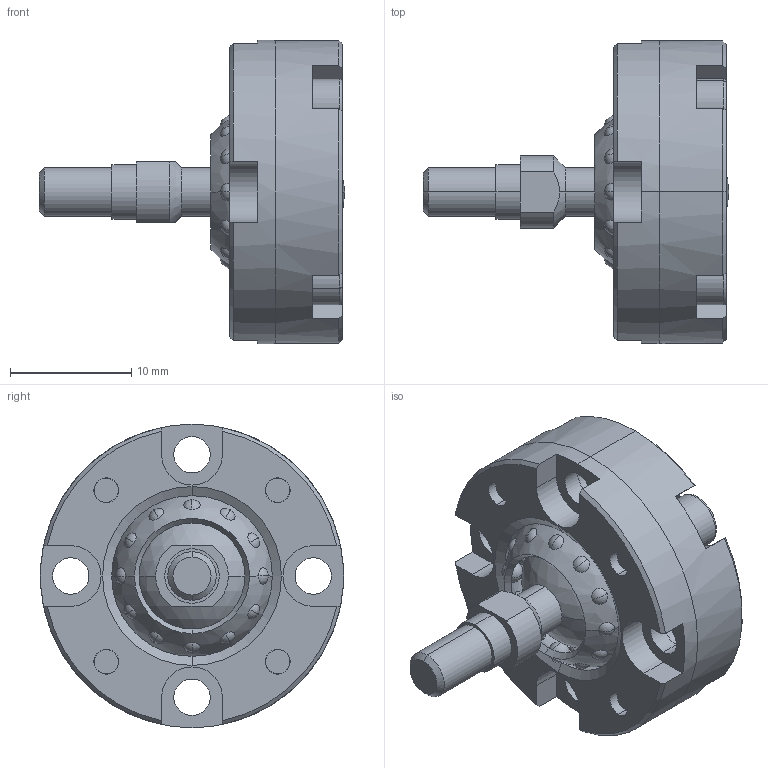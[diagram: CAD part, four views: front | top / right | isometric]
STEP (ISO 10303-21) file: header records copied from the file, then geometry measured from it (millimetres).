
FILE_DESCRIPTION (( 'STEP AP203' ), '1' );
FILE_NAME ('SR JOINT - SRJ006C.STEP', '2010-06-01T19:31:01', ( 'render' ), ( '' ), 'SwSTEP 2.0', 'SolidWorks 2009', '' );
FILE_SCHEMA (( 'CONFIG_CONTROL_DESIGN' ));
Length unit declared in the file: millimetre
Products named in the file (1): SR JOINT - SRJ006C
Bounding box: 25.2 x 25 x 25 mm (x, y, z)
Surface area: 4395 mm2 (no closed solid volume)
Topology: 0 solids, 13 shells, 286 faces, 816 edges, 563 vertices
Faces by surface type: sphere 106, plane 88, cylinder 57, cone 27, torus 8
Entity records: 9623 total; most frequent: DIRECTION 1872, CARTESIAN_POINT 1698, ORIENTED_EDGE 1418, AXIS2_PLACEMENT_3D 820, EDGE_CURVE 785, VERTEX_POINT 550, CIRCLE 533, EDGE_LOOP 399
